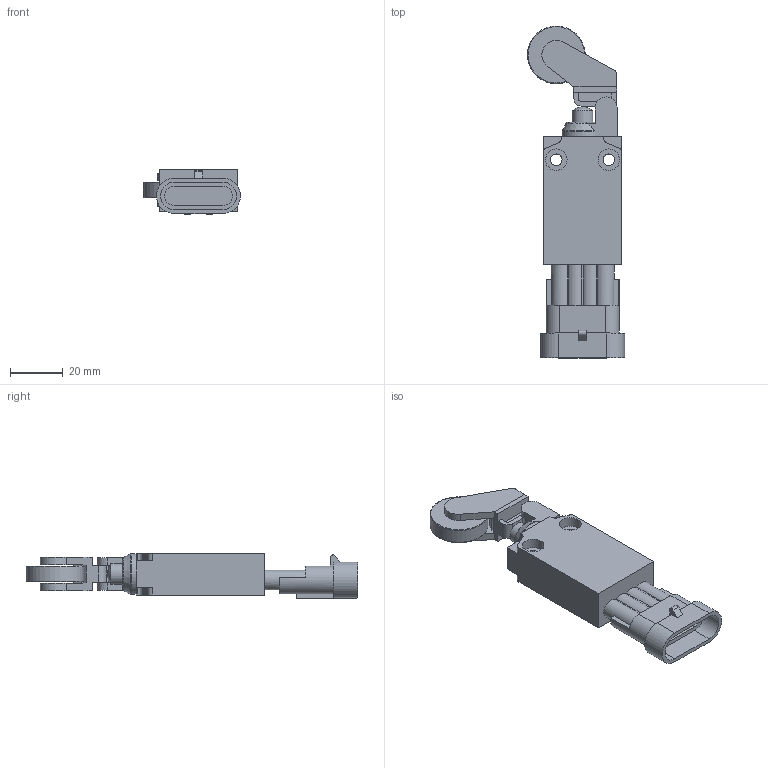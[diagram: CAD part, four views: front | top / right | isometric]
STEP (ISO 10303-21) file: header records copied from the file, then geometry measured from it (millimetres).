
FILE_DESCRIPTION(/* description */ (''),/* implementation_level */ '2;1');
FILE_NAME(/* name */ 'C:\Users\servizio.tecnico\Desktop\CADENAS\3D\EP1_STP\STP_EP1_G38A.stp',/* time_stamp */ '2017-09-04T09:58:58+02:00',/* author */ ('servizio.tecnico'),/* organization */ (''),/* preprocessor_version */ 'ST-DEVELOPER v16.1',/* originating_system */ 'Autodesk Inventor 2016',/* authorisation */ '');
FILE_SCHEMA (('AUTOMOTIVE_DESIGN { 1 0 10303 214 3 1 1 }'));
Length unit declared in the file: millimetre
Products named in the file (3): Product; EP1G38-A; BASE ASSI 
Assembly tree (2 placements, depth 3):
  BASE ASSI 
    EP1G38-A
      Product
Bounding box: 37 x 126.45 x 17.5 mm (x, y, z)
Volume: 35580.7 mm3; surface area: 16579 mm2
Topology: 6 solids, 6 shells, 262 faces, 716 edges, 475 vertices
Faces by surface type: plane 193, cylinder 63, torus 4, sphere 1, cone 1
Full cylindrical faces by diameter (mm): 4.4 x2, 7.95 x1, 8.05 x1, 8.2 x4, 22 x1
Entity records: 8522 total; most frequent: CARTESIAN_POINT 1495, ORIENTED_EDGE 1402, DIRECTION 1362, EDGE_CURVE 701, LINE 558, VECTOR 558, VERTEX_POINT 472, AXIS2_PLACEMENT_3D 402
